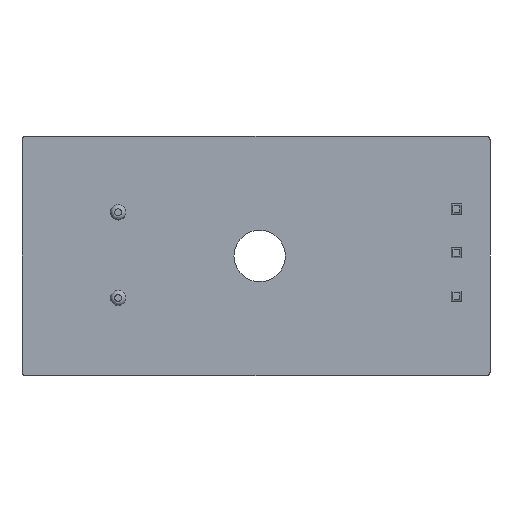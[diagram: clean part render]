
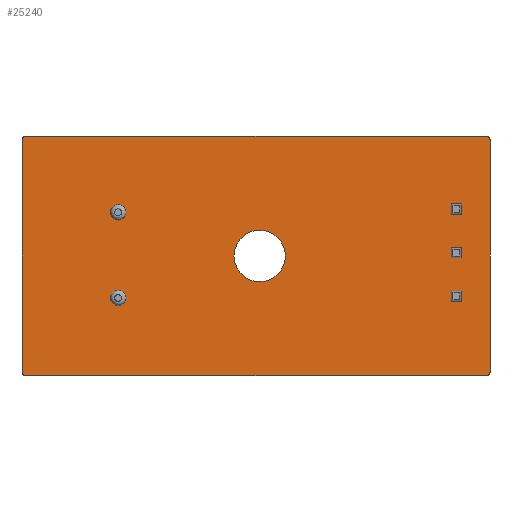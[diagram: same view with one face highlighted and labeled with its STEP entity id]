
A CAD part, front view. The second image highlights one B-rep face of the part: STEP entity #25240.
In plain terms, the highlighted planar face has unit normal (0, -1, 0).
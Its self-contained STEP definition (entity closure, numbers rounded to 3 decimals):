
#756=CIRCLE('',#26789,1.5);
#801=CIRCLE('',#26838,0.215);
#802=CIRCLE('',#26841,0.215);
#803=CIRCLE('',#26842,0.215);
#804=CIRCLE('',#26843,0.215);
#2160=FACE_BOUND('',#3980,.T.);
#2537=FACE_OUTER_BOUND('',#3979,.T.);
#3979=EDGE_LOOP('',(#18227,#18228,#18229,#18230,#18231,#18232,#18233,#18234));
#3980=EDGE_LOOP('',(#18235));
#5938=LINE('',#49376,#8285);
#5940=LINE('',#49380,#8287);
#5941=LINE('',#49384,#8288);
#5942=LINE('',#49388,#8289);
#8285=VECTOR('',#29342,2.151);
#8287=VECTOR('',#29346,2.151);
#8288=VECTOR('',#29349,2.151);
#8289=VECTOR('',#29352,2.151);
#10250=VERTEX_POINT('',#43928);
#10955=VERTEX_POINT('',#49369);
#10956=VERTEX_POINT('',#49370);
#10957=VERTEX_POINT('',#49375);
#10958=VERTEX_POINT('',#49379);
#10959=VERTEX_POINT('',#49381);
#10960=VERTEX_POINT('',#49383);
#10961=VERTEX_POINT('',#49385);
#10962=VERTEX_POINT('',#49387);
#12985=EDGE_CURVE('',#10250,#10250,#756,.T.);
#13690=EDGE_CURVE('',#10955,#10956,#801,.F.);
#13693=EDGE_CURVE('',#10956,#10957,#5938,.T.);
#13695=EDGE_CURVE('',#10958,#10955,#5940,.T.);
#13696=EDGE_CURVE('',#10959,#10958,#802,.F.);
#13697=EDGE_CURVE('',#10960,#10959,#5941,.T.);
#13698=EDGE_CURVE('',#10961,#10960,#803,.F.);
#13699=EDGE_CURVE('',#10962,#10961,#5942,.T.);
#13700=EDGE_CURVE('',#10957,#10962,#804,.F.);
#18227=ORIENTED_EDGE('',*,*,#13690,.F.);
#18228=ORIENTED_EDGE('',*,*,#13695,.F.);
#18229=ORIENTED_EDGE('',*,*,#13696,.F.);
#18230=ORIENTED_EDGE('',*,*,#13697,.F.);
#18231=ORIENTED_EDGE('',*,*,#13698,.F.);
#18232=ORIENTED_EDGE('',*,*,#13699,.F.);
#18233=ORIENTED_EDGE('',*,*,#13700,.F.);
#18234=ORIENTED_EDGE('',*,*,#13693,.F.);
#18235=ORIENTED_EDGE('',*,*,#12985,.T.);
#23418=PLANE('',#26840);
#25240=ADVANCED_FACE('',(#2537,#2160),#23418,.T.);
#26789=AXIS2_PLACEMENT_3D('',#43930,#28901,#28902);
#26838=AXIS2_PLACEMENT_3D('',#49371,#29336,#29337);
#26840=AXIS2_PLACEMENT_3D('',#49378,#29344,#29345);
#26841=AXIS2_PLACEMENT_3D('',#49382,#29347,#29348);
#26842=AXIS2_PLACEMENT_3D('',#49386,#29350,#29351);
#26843=AXIS2_PLACEMENT_3D('',#49389,#29353,#29354);
#28901=DIRECTION('center_axis',(0.,1.,0.));
#28902=DIRECTION('ref_axis',(-1.,0.,0.));
#29336=DIRECTION('center_axis',(0.,-1.,0.));
#29337=DIRECTION('ref_axis',(0.707,0.,0.707));
#29342=DIRECTION('',(0.,0.,-1.));
#29344=DIRECTION('center_axis',(0.,-1.,0.));
#29345=DIRECTION('ref_axis',(0.,0.,-1.));
#29346=DIRECTION('',(1.,0.,0.));
#29347=DIRECTION('center_axis',(0.,-1.,0.));
#29348=DIRECTION('ref_axis',(-0.707,0.,0.707));
#29349=DIRECTION('',(0.,0.,1.));
#29350=DIRECTION('center_axis',(0.,-1.,0.));
#29351=DIRECTION('ref_axis',(-0.707,0.,-0.707));
#29352=DIRECTION('',(-1.,0.,0.));
#29353=DIRECTION('center_axis',(0.,-1.,0.));
#29354=DIRECTION('ref_axis',(0.707,0.,-0.707));
#43928=CARTESIAN_POINT('',(-34.841,0.759,13.));
#43930=CARTESIAN_POINT('Origin',(-36.341,0.759,13.));
#49369=CARTESIAN_POINT('',(-23.114,0.759,19.99));
#49370=CARTESIAN_POINT('',(-22.899,0.759,19.775));
#49371=CARTESIAN_POINT('Origin',(-23.114,0.759,19.775));
#49375=CARTESIAN_POINT('',(-22.899,0.759,6.226));
#49376=CARTESIAN_POINT('',(-22.899,0.759,19.775));
#49378=CARTESIAN_POINT('Origin',(-50.105,0.759,19.775));
#49379=CARTESIAN_POINT('',(-49.997,0.759,19.99));
#49380=CARTESIAN_POINT('',(-50.105,0.759,19.99));
#49381=CARTESIAN_POINT('',(-50.212,0.759,19.775));
#49382=CARTESIAN_POINT('Origin',(-49.997,0.759,19.775));
#49383=CARTESIAN_POINT('',(-50.212,0.759,6.226));
#49384=CARTESIAN_POINT('',(-50.212,0.759,19.775));
#49385=CARTESIAN_POINT('',(-49.997,0.759,6.011));
#49386=CARTESIAN_POINT('Origin',(-49.997,0.759,6.226));
#49387=CARTESIAN_POINT('',(-23.114,0.759,6.011));
#49388=CARTESIAN_POINT('',(-50.105,0.759,6.011));
#49389=CARTESIAN_POINT('Origin',(-23.114,0.759,6.226));
